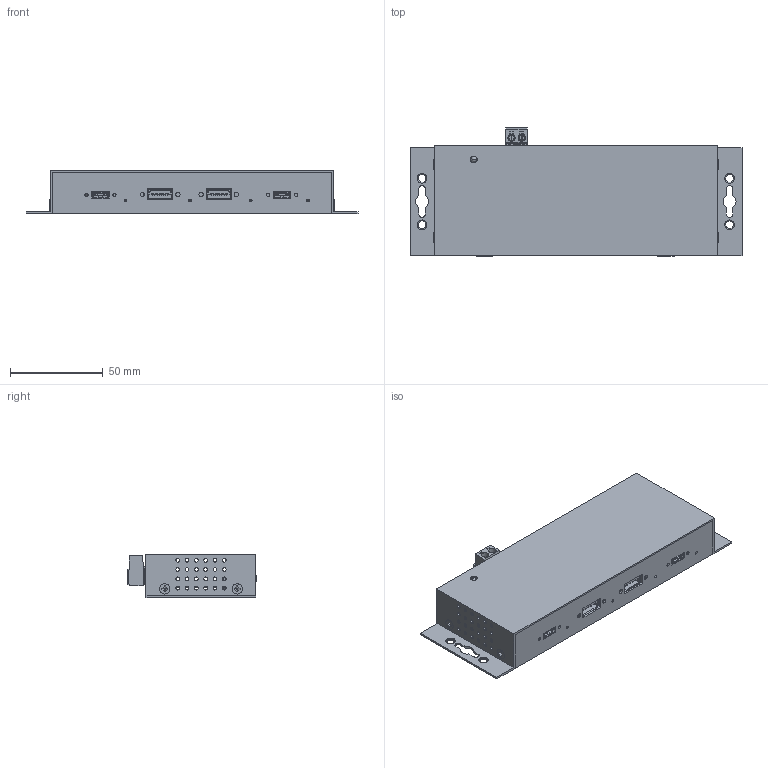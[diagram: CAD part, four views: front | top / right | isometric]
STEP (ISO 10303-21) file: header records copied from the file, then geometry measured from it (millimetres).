
FILE_DESCRIPTION(('FreeCAD Model'),'2;1');
FILE_NAME('X:/Technische Zeichnungen/EX-1234HMVS/EX-1234HMVS_3D.step', '2020-07-09T11:49:31',('Author'),(''), 'Open CASCADE STEP processor 6.8','FreeCAD','Unknown');
FILE_SCHEMA(('AUTOMOTIVE_DESIGN_CC2 { 1 2 10303 214 -1 1 5 4 }'));
Products named in the file (1): EX-1234HMVS_3D
Bounding box: 178.6 x 69.13 x 23.47 mm (x, y, z)
Volume: 47336 mm3; surface area: 83505.4 mm2
Topology: 2 solids, 3 shells, 3971 faces, 11940 edges, 7906 vertices
Faces by surface type: plane 2797, cylinder 971, cone 110, torus 73, sphere 14, revolution 6
Full cylindrical faces by diameter (mm): 0.55 x6, 1.4 x4, 1.5 x2, 1.75 x4, 2 x48, 2.4 x4, 2.6 x5, 3.12 x2, 3.2 x1, 3.4 x6, 3.6 x1, 4 x3, 4.2 x4, 5.3 x4, 8.5 x1
Entity records: 438628 total; most frequent: CARTESIAN_POINT 186873, DIRECTION 37956, ORIENTED_EDGE 23852, PCURVE 23852, DEFINITIONAL_REPRESENTATION 23852, LINE 23817, VECTOR 23817, EDGE_CURVE 11926
